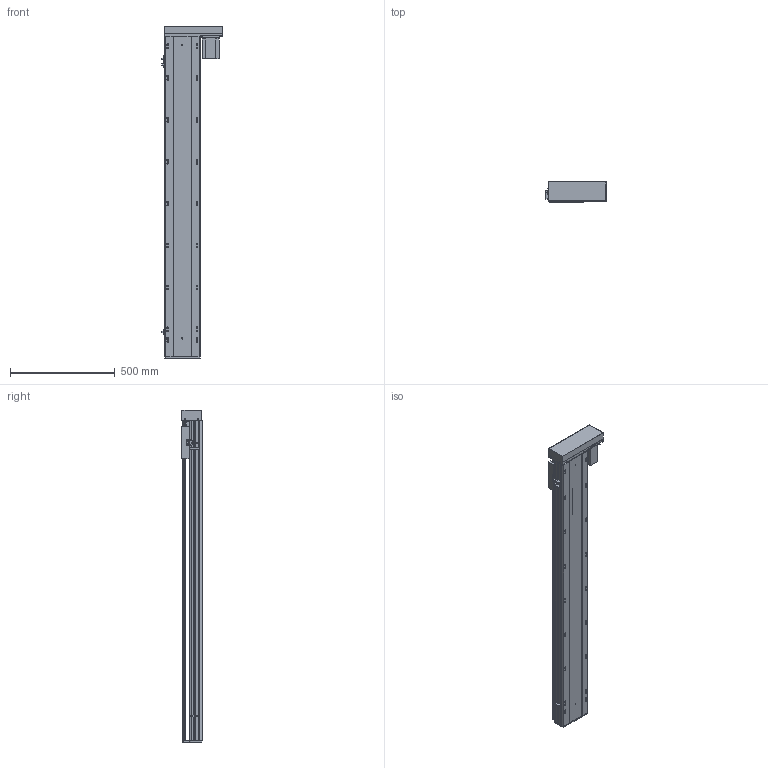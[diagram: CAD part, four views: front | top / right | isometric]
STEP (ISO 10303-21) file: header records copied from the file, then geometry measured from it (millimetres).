
FILE_DESCRIPTION (( 'STEP AP203' ), '1' );
FILE_NAME ('Y170-D10-S1300-BR-P750W.STEP', '2020-01-21T12:43:52', ( '微软用户' ), ( '微软中国' ), 'SwSTEP 2.0', 'SolidWorks 2017', '' );
FILE_SCHEMA (( 'CONFIG_CONTROL_DESIGN' ));
Length unit declared in the file: millimetre
Products named in the file (12): Y170-D10-S1300-BR-P750W; 侂狟750W; EGH20賑輸_蕼偞; Y雄赽釱-耜蚾; Y170-陔遴奻裔-BR; Y-BL.BR-俋欶; Y--BL蟀諉啣-陔遴-; Y170耜裔--準---; YD-Y100-135-新外置传感挡片(通用）; 170--掛极-BR; Y100-135俋离換覜ん; Y170-BL-P750W楊擘啣
Assembly tree (14 placements, depth 2):
  Y170-D10-S1300-BR-P750W
    Y170耜裔--準---
    170--掛极-BR
    Y170-BL-P750W楊擘啣
    侂狟750W
    EGH20賑輸_蕼偞  x2
    Y雄赽釱-耜蚾
    Y170-陔遴奻裔-BR
    Y-BL.BR-俋欶
    Y--BL蟀諉啣-陔遴-
    YD-Y100-135-新外置传感挡片(通用）
    Y100-135俋离換覜ん  x3
Bounding box: 289 x 97 x 1583.5 mm (x, y, z)
Volume: 7196124.3 mm3; surface area: 2527180 mm2
Topology: 14 solids, 14 shells, 957 faces, 2738 edges, 1808 vertices
Faces by surface type: cylinder 498, plane 443, cone 16
Entity records: 30810 total; most frequent: CARTESIAN_POINT 5606, DIRECTION 5068, ORIENTED_EDGE 4972, EDGE_CURVE 2486, AXIS2_PLACEMENT_3D 1810, VERTEX_POINT 1652, LINE 1448, VECTOR 1448
